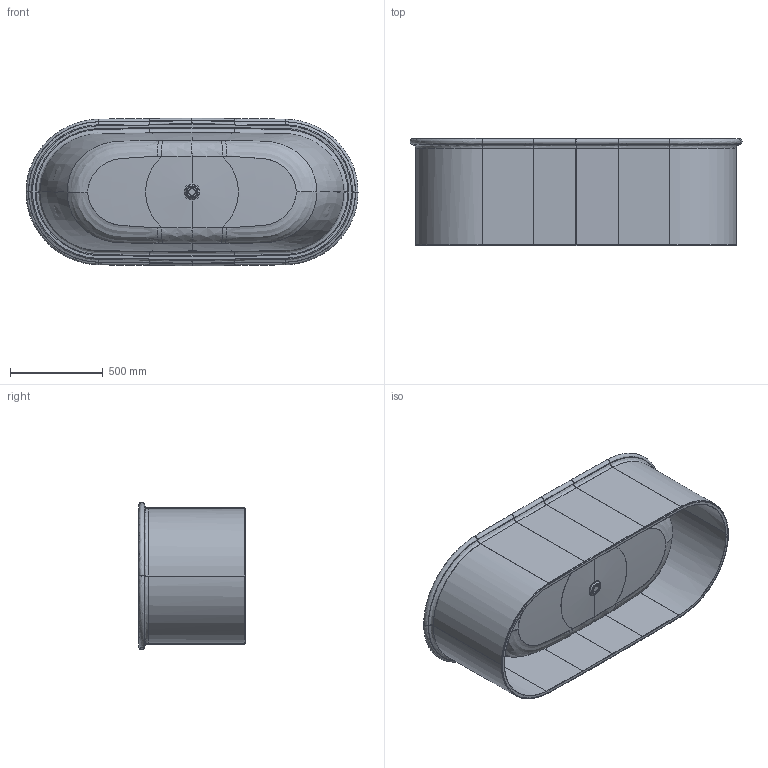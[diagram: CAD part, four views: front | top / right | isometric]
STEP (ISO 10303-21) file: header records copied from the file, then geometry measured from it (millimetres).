
FILE_DESCRIPTION((' '),'2;1');
FILE_NAME( '18aabe38a7ccdcc3.stp', '2023-09-19T07:22:10', (' '), ('--- Datakit www.datakit.com---'), ' Datakit CrossCadWare V2022.3 Jun 15 2022', 'DATAKIT 2023 (c)', ' ');
FILE_SCHEMA(('CONFIG_CONTROL_DESIGN'));
Length unit declared in the file: millimetre
Products named in the file (1): 18aabe336be47fc3
Bounding box: 1787.81 x 575 x 793.23 mm (x, y, z)
Volume: 13092350.8 mm3; surface area: 9833300.3 mm2
Topology: 3 solids, 3 shells, 242 faces, 573 edges, 340 vertices
Faces by surface type: bspline 174, torus 22, plane 15, extrusion 12, cylinder 11, cone 8
Full cylindrical faces by diameter (mm): 35 x1, 52 x1
Entity records: 174627 total; most frequent: CARTESIAN_POINT 170470, ORIENTED_EDGE 1128, EDGE_CURVE 564, B_SPLINE_CURVE_WITH_KNOTS 403, DIRECTION 370, VERTEX_POINT 337, EDGE_LOOP 254, ADVANCED_FACE 242
